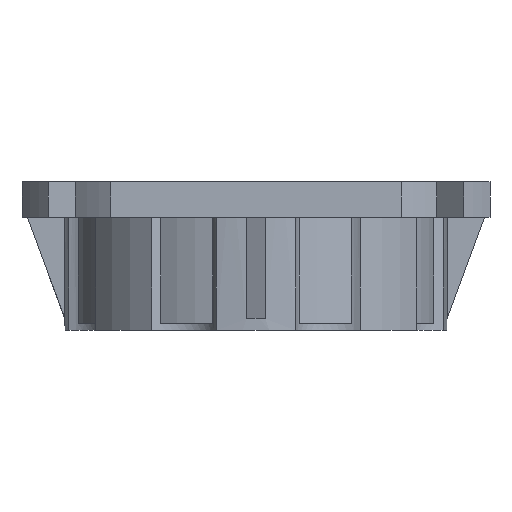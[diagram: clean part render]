
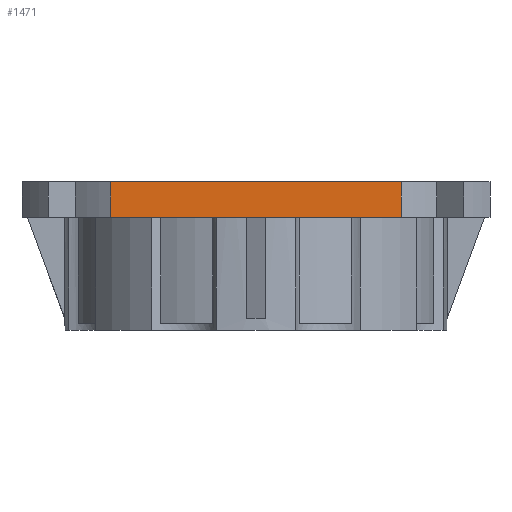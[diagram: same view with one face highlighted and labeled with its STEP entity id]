
A CAD part, left-side view. The second image highlights one B-rep face of the part: STEP entity #1471.
In plain terms, the highlighted planar face has unit normal (-1, 0, 0) as drawn and (0, 0, -1) by its records, which use the part's own axes.
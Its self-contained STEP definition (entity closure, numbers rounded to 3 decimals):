
#1471=ADVANCED_FACE('',(#1633),#4226,.T.);
#1633=FACE_OUTER_BOUND('',#1807,.T.);
#1807=EDGE_LOOP('',(#2653,#2654,#2655,#2656));
#2653=ORIENTED_EDGE('',*,*,#2737,.F.);
#2654=ORIENTED_EDGE('',*,*,#3014,.T.);
#2655=ORIENTED_EDGE('',*,*,#2743,.F.);
#2656=ORIENTED_EDGE('',*,*,#2903,.F.);
#2737=EDGE_CURVE('',#3861,#3862,#3633,.T.);
#2743=EDGE_CURVE('',#3867,#3868,#3636,.T.);
#2903=EDGE_CURVE('',#3862,#3867,#3741,.T.);
#3014=EDGE_CURVE('',#3861,#3868,#3798,.T.);
#3633=B_SPLINE_CURVE_WITH_KNOTS('',1,(#6132,#6133),.UNSPECIFIED.,.F.,.F.,
(2,2),(0.,13.),.UNSPECIFIED.);
#3636=B_SPLINE_CURVE_WITH_KNOTS('',1,(#6147,#6148),.UNSPECIFIED.,.F.,.F.,
(2,2),(0.,13.),.UNSPECIFIED.);
#3741=B_SPLINE_CURVE_WITH_KNOTS('',1,(#6586,#6587),.UNSPECIFIED.,.F.,.F.,
(2,2),(0.,105.357),.UNSPECIFIED.);
#3798=B_SPLINE_CURVE_WITH_KNOTS('',1,(#6862,#6863),.UNSPECIFIED.,.F.,.F.,
(2,2),(-105.357,0.),.UNSPECIFIED.);
#3861=VERTEX_POINT('',#5814);
#3862=VERTEX_POINT('',#5815);
#3867=VERTEX_POINT('',#5820);
#3868=VERTEX_POINT('',#5821);
#4226=PLANE('',#4616);
#4616=AXIS2_PLACEMENT_3D('',#5784,#4992,$);
#4992=DIRECTION('',(0.,0.,-1.));
#5784=CARTESIAN_POINT('',(39.64,-63.274,-85.));
#5814=CARTESIAN_POINT('',(41.,-52.678,-85.));
#5815=CARTESIAN_POINT('',(54.,-52.678,-85.));
#5820=CARTESIAN_POINT('',(54.,52.678,-85.));
#5821=CARTESIAN_POINT('',(41.,52.678,-85.));
#6132=CARTESIAN_POINT('',(41.,-52.678,-85.));
#6133=CARTESIAN_POINT('',(54.,-52.678,-85.));
#6147=CARTESIAN_POINT('',(54.,52.678,-85.));
#6148=CARTESIAN_POINT('',(41.,52.678,-85.));
#6586=CARTESIAN_POINT('',(54.,-52.678,-85.));
#6587=CARTESIAN_POINT('',(54.,52.678,-85.));
#6862=CARTESIAN_POINT('',(41.,-52.678,-85.));
#6863=CARTESIAN_POINT('',(41.,52.678,-85.));
